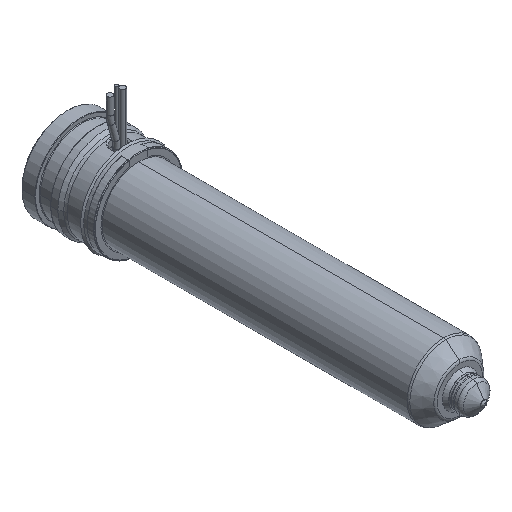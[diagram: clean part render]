
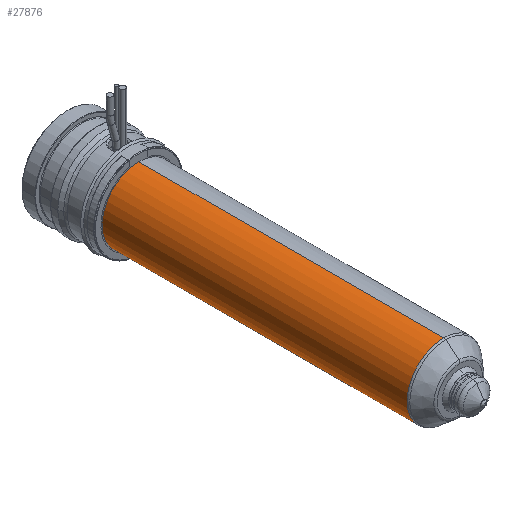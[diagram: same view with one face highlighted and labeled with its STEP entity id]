
A CAD part, isometric view. The second image highlights one B-rep face of the part: STEP entity #27876.
In plain terms, the highlighted cylindrical face has radius 12 mm (diameter 24 mm), a partial arc.
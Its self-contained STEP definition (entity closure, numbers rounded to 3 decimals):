
#27361=CARTESIAN_POINT('',(0.,-24.,0.));
#27362=DIRECTION('',(0.,1.,0.));
#27363=DIRECTION('',(0.,0.,-1.));
#27364=AXIS2_PLACEMENT_3D('',#27361,#27362,#27363);
#27369=DIRECTION('',(0.,1.,0.));
#27370=VECTOR('',#27369,99.736);
#27371=CARTESIAN_POINT('',(0.,-123.736,12.));
#27372=LINE('',#27371,#27370);
#27384=DIRECTION('',(0.,1.,0.));
#27385=VECTOR('',#27384,99.736);
#27386=CARTESIAN_POINT('',(0.,-123.736,-12.));
#27387=LINE('',#27386,#27385);
#27415=CARTESIAN_POINT('',(0.,-123.736,0.));
#27416=DIRECTION('',(0.,-1.,0.));
#27417=DIRECTION('',(0.,0.,1.));
#27418=AXIS2_PLACEMENT_3D('',#27415,#27416,#27417);
#27745=CARTESIAN_POINT('',(0.,-123.736,12.));
#27746=CARTESIAN_POINT('',(0.,-24.,12.));
#27747=VERTEX_POINT('',#27745);
#27748=VERTEX_POINT('',#27746);
#27749=CARTESIAN_POINT('',(0.,-123.736,-12.));
#27750=CARTESIAN_POINT('',(0.,-24.,-12.));
#27751=VERTEX_POINT('',#27749);
#27752=VERTEX_POINT('',#27750);
#27862=CARTESIAN_POINT('',(0.,-14.125,0.));
#27863=DIRECTION('',(0.,-1.,0.));
#27864=DIRECTION('',(0.,0.,1.));
#27865=AXIS2_PLACEMENT_3D('',#27862,#27863,#27864);
#27866=CYLINDRICAL_SURFACE('',#27865,12.);
#27868=ORIENTED_EDGE('',*,*,#27867,.F.);
#27870=ORIENTED_EDGE('',*,*,#27869,.T.);
#27872=ORIENTED_EDGE('',*,*,#27871,.T.);
#27873=ORIENTED_EDGE('',*,*,#27855,.T.);
#27874=EDGE_LOOP('',(#27868,#27870,#27872,#27873));
#27875=FACE_OUTER_BOUND('',#27874,.F.);
#27876=ADVANCED_FACE('',(#27875),#27866,.T.);
#27365=CIRCLE('',#27364,12.);
#27419=CIRCLE('',#27418,12.);
#27855=EDGE_CURVE('',#27752,#27748,#27365,.T.);
#27867=EDGE_CURVE('',#27747,#27748,#27372,.T.);
#27869=EDGE_CURVE('',#27747,#27751,#27419,.T.);
#27871=EDGE_CURVE('',#27751,#27752,#27387,.T.);
